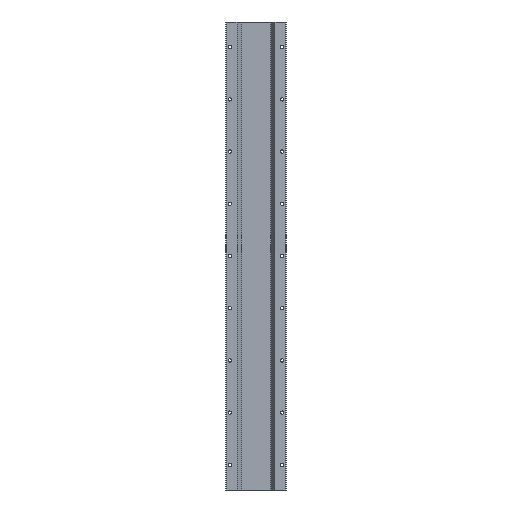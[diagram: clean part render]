
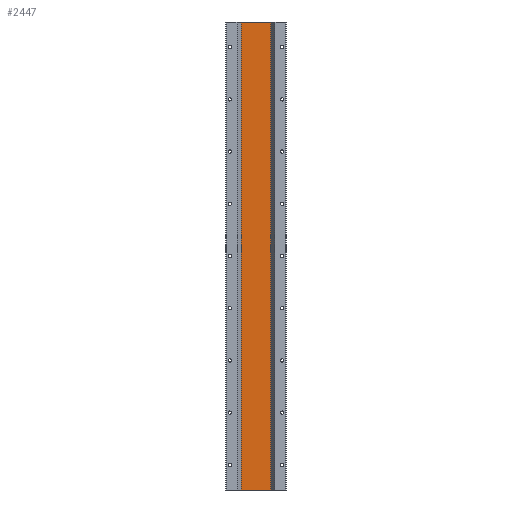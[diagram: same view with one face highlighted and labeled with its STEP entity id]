
A CAD part, front view. The second image highlights one B-rep face of the part: STEP entity #2447.
In plain terms, the highlighted planar face has unit normal (0, -1, 0).
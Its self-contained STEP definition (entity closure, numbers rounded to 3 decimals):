
#2437 = VERTEX_POINT ( 'NONE', #5011 ) ;
#2440 = EDGE_CURVE ( 'NONE', #2441, #2437, #5009, .T. ) ;
#2441 = VERTEX_POINT ( 'NONE', #5005 ) ;
#2447 = ADVANCED_FACE ( 'NONE', ( #4995 ), #4994, .T. ) ;
#2448 = EDGE_LOOP ( 'NONE', ( #2449, #2455, #2458, #2460 ) ) ;
#2449 = ORIENTED_EDGE ( 'NONE', *, *, #2450, .F. ) ;
#2450 = EDGE_CURVE ( 'NONE', #2451, #2437, #4989, .T. ) ;
#2451 = VERTEX_POINT ( 'NONE', #4985 ) ;
#2455 = ORIENTED_EDGE ( 'NONE', *, *, #2456, .F. ) ;
#2456 = EDGE_CURVE ( 'NONE', #2457, #2451, #4978, .T. ) ;
#2457 = VERTEX_POINT ( 'NONE', #4974 ) ;
#2458 = ORIENTED_EDGE ( 'NONE', *, *, #2459, .T. ) ;
#2459 = EDGE_CURVE ( 'NONE', #2457, #2441, #4973, .T. ) ;
#2460 = ORIENTED_EDGE ( 'NONE', *, *, #2440, .T. ) ;
#4970 = DIRECTION ( 'NONE',  ( 1., 0., 0. ) ) ;
#4971 = VECTOR ( 'NONE', #4970, 1000. ) ;
#4972 = CARTESIAN_POINT ( 'NONE',  ( 28.2, 13.5, -896. ) ) ;
#4973 = LINE ( 'NONE', #4972, #4971 ) ;
#4974 = CARTESIAN_POINT ( 'NONE',  ( -28.2, 13.5, -896. ) ) ;
#4975 = DIRECTION ( 'NONE',  ( 0., 0., 1. ) ) ;
#4976 = VECTOR ( 'NONE', #4975, 1000. ) ;
#4977 = CARTESIAN_POINT ( 'NONE',  ( -28.2, 13.5, -896. ) ) ;
#4978 = LINE ( 'NONE', #4977, #4976 ) ;
#4985 = CARTESIAN_POINT ( 'NONE',  ( -28.2, 13.5, 0. ) ) ;
#4986 = DIRECTION ( 'NONE',  ( 1., 0., 0. ) ) ;
#4987 = VECTOR ( 'NONE', #4986, 1000. ) ;
#4988 = CARTESIAN_POINT ( 'NONE',  ( 28.2, 13.5, 0. ) ) ;
#4989 = LINE ( 'NONE', #4988, #4987 ) ;
#4990 = DIRECTION ( 'NONE',  ( 0., 0., -1. ) ) ;
#4991 = DIRECTION ( 'NONE',  ( 0., -1., 0. ) ) ;
#4992 = CARTESIAN_POINT ( 'NONE',  ( 28.2, 13.5, -896. ) ) ;
#4993 = AXIS2_PLACEMENT_3D ( 'NONE', #4992, #4991, #4990 ) ;
#4994 = PLANE ( 'NONE',  #4993 ) ;
#4995 = FACE_OUTER_BOUND ( 'NONE', #2448, .T. ) ;
#5005 = CARTESIAN_POINT ( 'NONE',  ( 28.2, 13.5, -896. ) ) ;
#5006 = DIRECTION ( 'NONE',  ( 0., 0., 1. ) ) ;
#5007 = VECTOR ( 'NONE', #5006, 1000. ) ;
#5008 = CARTESIAN_POINT ( 'NONE',  ( 28.2, 13.5, -896. ) ) ;
#5009 = LINE ( 'NONE', #5008, #5007 ) ;
#5011 = CARTESIAN_POINT ( 'NONE',  ( 28.2, 13.5, 0. ) ) ;
